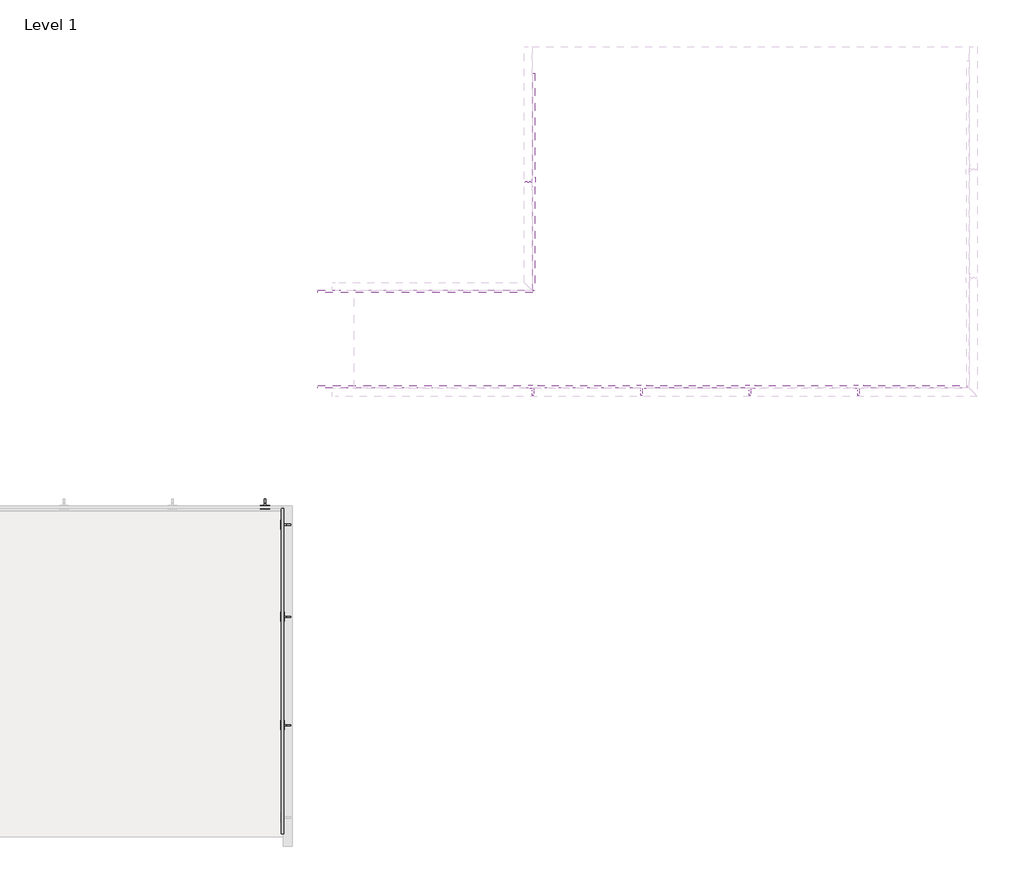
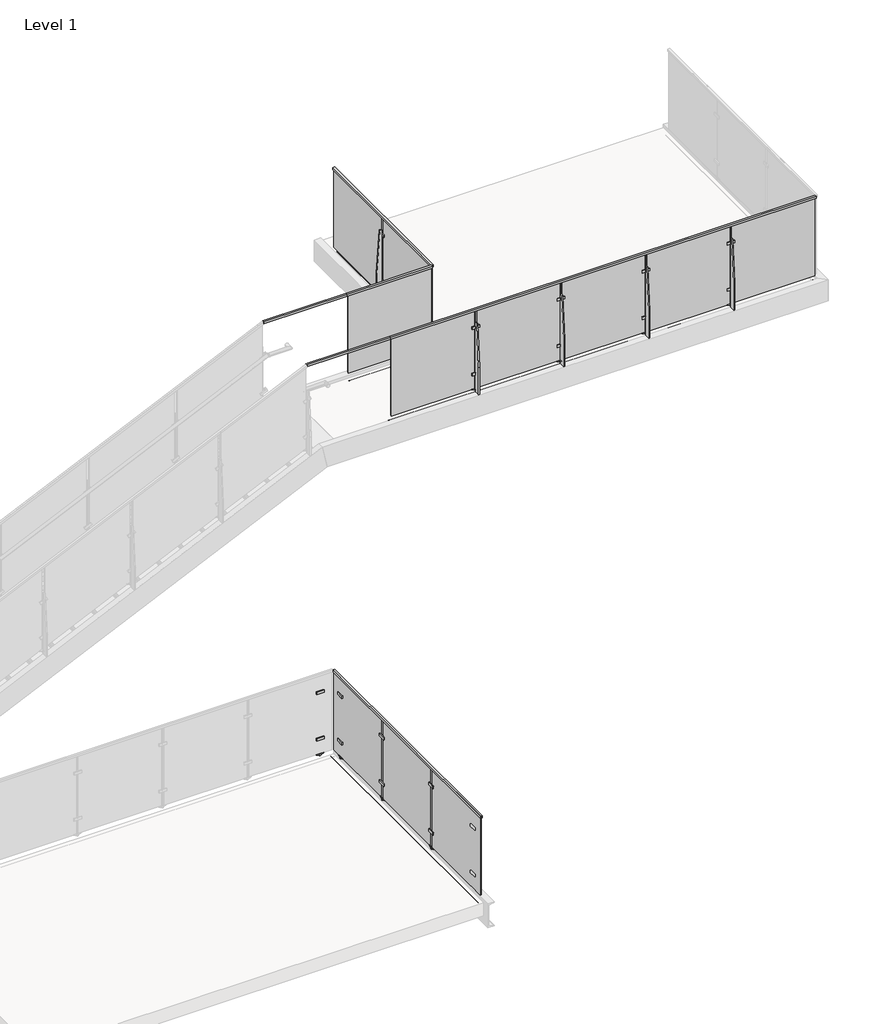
# One storey, part 16 of 37: 4 railings, 2 proxies.
"""IFC4 building model written with IfcOpenShell, lengths in millimetres."""

from ifc_helpers import new_model, si_unit, point, frame, frame_2d, origin, place, context, project, spatial, polyline, circle_curve, trimmed, segment, composite_curve, outline, extrude, faceted_brep, transform, mapped, element, save
from components import baluster_end_post_viva_solo_top_mount_welded_steel_channel_1b436ed5, baluster_end_post_viva_solo_top_mount_welded_steel_channel_5e72ad2b

model = new_model("IFC4")

# Units and contexts
model_context = context("Model", 3, world=origin())
ifc_project = project(units=[si_unit("LENGTHUNIT", "METRE", prefix="MILLI")], contexts=[model_context])

# Site, building, storey
site = spatial("IfcSite", under=ifc_project)
building = spatial("IfcBuilding", under=site)
storey = spatial("IfcBuildingStorey", under=building, Name="Level 1", Elevation=0.0)

# Proxies
placement = place(None, origin())
baluster_end_post_viva_solo_top_mount_welded_steel_channel_shape = baluster_end_post_viva_solo_top_mount_welded_steel_channel_1b436ed5(model_context)
element("IfcBuildingElementProxy", 1, Name="Baluster-End-Post-VIVA-SOLO-Top Mount : WELDED STEEL CHANNEL_TOP MOUNT FOLD_STRAIGHT", ObjectType="Baluster-End-Post-VIVA-SOLO-Top Mount : WELDED STEEL CHANNEL_TOP MOUNT FOLD_STRAIGHT", at=placement, inside=storey, context=model_context, shape_type="MappedRepresentation", body=[
    mapped(baluster_end_post_viva_solo_top_mount_welded_steel_channel_shape, transform((-7805.6781451, 11842.6434615, -0.508), x_axis=(0.0, 1.0, 0.0), y_axis=(-1.0, 0.0, 0.0), z_axis=(0.0, 0.0, 1.0))),
])
baluster_end_post_viva_solo_top_mount_welded_steel_channel_2_shape = baluster_end_post_viva_solo_top_mount_welded_steel_channel_5e72ad2b(model_context)
element("IfcBuildingElementProxy", 2, Name="Baluster-End-Post-VIVA-SOLO-Top Mount : WELDED STEEL CHANNEL_TOP MOUNT FOLD_STRAIGHT", ObjectType="Baluster-End-Post-VIVA-SOLO-Top Mount : WELDED STEEL CHANNEL_TOP MOUNT FOLD_STRAIGHT", at=placement, inside=storey, context=model_context, shape_type="MappedRepresentation", body=[
    mapped(baluster_end_post_viva_solo_top_mount_welded_steel_channel_2_shape, transform((-7780.5956451, 11817.5609615, -0.508), x_axis=(-1.0, 0.0, 0.0), y_axis=(0.0, -1.0, 0.0), z_axis=(0.0, 0.0, 1.0))),
])

# Railings
element("IfcRailing", 3, ObjectType="VIVA-SOLO-Glass-Top_Weld_Steel-Channel Mount-Straight", at=placement, inside=storey, context=model_context, shape_type="SweptSolid", body=[
    extrude(outline(composite_curve([segment(trimmed(circle_curve(frame_2d((-0.254, -7805.6781451)), 0.254), [point((-0.254, -7805.9321451))], [point((-0.254, -7805.4241451))], False, "CARTESIAN"), True, "CONTINUOUS"), segment(trimmed(circle_curve(frame_2d((-0.254, -7805.6781451)), 0.254), [point((-0.254, -7805.4241451))], [point((-0.254, -7805.9321451))], False, "CARTESIAN"), True, "CONTINUOUS")], self_intersect=False)), frame((0.0, 8794.6434615, 0.0), z_axis=(0.0, 1.0, 0.0), x_axis=(0.0, 0.0, 1.0)), (0.0, 0.0, 1.0), 3048.0),
    extrude(outline(composite_curve([segment(trimmed(circle_curve(frame_2d((-0.254, -7805.6781451)), 0.254), [point((-0.254, -7805.9321451))], [point((-0.254, -7805.4241451))], False, "CARTESIAN"), True, "CONTINUOUS"), segment(trimmed(circle_curve(frame_2d((-0.254, -7805.6781451)), 0.254), [point((-0.254, -7805.4241451))], [point((-0.254, -7805.9321451))], False, "CARTESIAN"), True, "CONTINUOUS")], self_intersect=False)), frame((0.0, 8794.6434615, 0.0), z_axis=(0.0, 1.0, 0.0), x_axis=(0.0, 0.0, 1.0)), (0.0, 0.0, 1.0), 3048.0),
    extrude(outline(polyline([(1079.5, -7780.5956451), (1054.1, -7780.5956451), (1054.1, -7775.8331451), (1074.7375, -7775.8331451), (1074.7375, -7763.1331451), (1054.1, -7763.1331451), (1054.1, -7758.3706451), (1079.5, -7758.3706451), (1079.5, -7780.5956451)])), frame((0.0, 8794.6434615, 0.0), z_axis=(0.0, 1.0, 0.0), x_axis=(0.0, 0.0, 1.0)), (0.0, 0.0, 1.0), 3048.0),
    extrude(outline(polyline([(-7775.8331451, 9797.5604149), (-7763.1331451, 9797.5604149), (-7763.1331451, 8806.9604149), (-7775.8331451, 8806.9604149), (-7775.8331451, 9797.5604149)])), frame((0.0, 0.0, 76.2), z_axis=(0.0, 0.0, 1.0), x_axis=(1.0, 0.0, 0.0)), (0.0, 0.0, 1.0), 998.474),
    extrude(outline(polyline([(914.4, -7753.6081451), (38.1, -7753.6081451), (38.1, -7690.1081451), (381.0, -7690.1081451), (914.4, -7728.2081451), (914.4, -7753.6081451)])), frame((0.0, 9804.2934615, 0.0), z_axis=(0.0, 1.0, 0.0), x_axis=(0.0, 0.0, 1.0)), (0.0, 0.0, 1.0), 12.7),
    extrude(outline(polyline([(-7763.1331451, 9855.0934615), (-7753.6081451, 9855.0934615), (-7753.6081451, 9766.1934615), (-7763.1331451, 9766.1934615), (-7763.1331451, 9855.0934615)])), frame((0.0, 0.0, 251.9910694), z_axis=(0.0, 0.0, 1.0), x_axis=(1.0, 0.0, 0.0)), (0.0, 0.0, 1.0), 31.75),
    extrude(outline(polyline([(-7763.1331451, 9855.0934615), (-7753.6081451, 9855.0934615), (-7753.6081451, 9766.1934615), (-7763.1331451, 9766.1934615), (-7763.1331451, 9855.0934615)])), frame((0.0, 0.0, 838.2992187), z_axis=(0.0, 0.0, 1.0), x_axis=(1.0, 0.0, 0.0)), (0.0, 0.0, 1.0), 31.75),
    extrude(outline(polyline([(-7785.3581451, 9855.0934615), (-7775.8331451, 9855.0934615), (-7775.8331451, 9766.1934615), (-7785.3581451, 9766.1934615), (-7785.3581451, 9855.0934615)])), frame((0.0, 0.0, 251.9910694), z_axis=(0.0, 0.0, 1.0), x_axis=(1.0, 0.0, 0.0)), (0.0, 0.0, 1.0), 31.75),
    extrude(outline(polyline([(-7785.3581451, 9855.0934615), (-7775.8331451, 9855.0934615), (-7775.8331451, 9766.1934615), (-7785.3581451, 9766.1934615), (-7785.3581451, 9855.0934615)])), frame((0.0, 0.0, 838.2992187), z_axis=(0.0, 0.0, 1.0), x_axis=(1.0, 0.0, 0.0)), (0.0, 0.0, 1.0), 31.75),
    extrude(outline(polyline([(9766.1934615, 76.2), (9855.0934615, 76.2), (9855.0934615, 69.85), (9810.6434615, 47.9353513), (9766.1934615, 69.85), (9766.1934615, 76.2)])), frame((-7775.8331451, 0.0, 0.0), z_axis=(1.0, 0.0, 0.0), x_axis=(0.0, 1.0, 0.0)), (0.0, 0.0, 1.0), 12.7),
    extrude(outline(composite_curve([segment(trimmed(circle_curve(frame_2d((9810.6434615, 267.8660694)), 6.35), [point((9804.2934615, 267.8660694))], [point((9816.9934615, 267.8660694))], False, "CARTESIAN"), True, "CONTINUOUS"), segment(trimmed(circle_curve(frame_2d((9810.6434615, 267.8660694)), 6.35), [point((9816.9934615, 267.8660694))], [point((9804.2934615, 267.8660694))], False, "CARTESIAN"), True, "CONTINUOUS")], self_intersect=False)), frame((-7775.8331451, 0.0, 0.0), z_axis=(1.0, 0.0, 0.0), x_axis=(0.0, 1.0, 0.0)), (0.0, 0.0, 1.0), 12.7),
    extrude(outline(composite_curve([segment(trimmed(circle_curve(frame_2d((9810.6434615, 854.1742187)), 6.35), [point((9804.2934615, 854.1742187))], [point((9816.9934615, 854.1742187))], False, "CARTESIAN"), True, "CONTINUOUS"), segment(trimmed(circle_curve(frame_2d((9810.6434615, 854.1742187)), 6.35), [point((9816.9934615, 854.1742187))], [point((9804.2934615, 854.1742187))], False, "CARTESIAN"), True, "CONTINUOUS")], self_intersect=False)), frame((-7775.8331451, 0.0, 0.0), z_axis=(1.0, 0.0, 0.0), x_axis=(0.0, 1.0, 0.0)), (0.0, 0.0, 1.0), 12.7),
    extrude(outline(composite_curve([segment(trimmed(circle_curve(frame_2d((9810.6434615, 60.325)), 11.1125), [point((9799.5309615, 60.325))], [point((9821.7559615, 60.325))], False, "CARTESIAN"), True, "CONTINUOUS"), segment(trimmed(circle_curve(frame_2d((9810.6434615, 60.325)), 11.1125), [point((9821.7559615, 60.325))], [point((9799.5309615, 60.325))], False, "CARTESIAN"), True, "CONTINUOUS")], self_intersect=False)), frame((-7779.0081451, 0.0, 0.0), z_axis=(1.0, 0.0, 0.0), x_axis=(0.0, 1.0, 0.0)), (0.0, 0.0, 1.0), 25.4),
    extrude(outline(polyline([(-7775.8331451, 10813.5604149), (-7763.1331451, 10813.5604149), (-7763.1331451, 9822.9604149), (-7775.8331451, 9822.9604149), (-7775.8331451, 10813.5604149)])), frame((0.0, 0.0, 76.2), z_axis=(0.0, 0.0, 1.0), x_axis=(1.0, 0.0, 0.0)), (0.0, 0.0, 1.0), 998.474),
    extrude(outline(polyline([(914.4, -7753.6081451), (38.1, -7753.6081451), (38.1, -7690.1081451), (381.0, -7690.1081451), (914.4, -7728.2081451), (914.4, -7753.6081451)])), frame((0.0, 10820.2934615, 0.0), z_axis=(0.0, 1.0, 0.0), x_axis=(0.0, 0.0, 1.0)), (0.0, 0.0, 1.0), 12.7),
    extrude(outline(polyline([(-7763.1331451, 10871.0934615), (-7753.6081451, 10871.0934615), (-7753.6081451, 10782.1934615), (-7763.1331451, 10782.1934615), (-7763.1331451, 10871.0934615)])), frame((0.0, 0.0, 251.9910694), z_axis=(0.0, 0.0, 1.0), x_axis=(1.0, 0.0, 0.0)), (0.0, 0.0, 1.0), 31.75),
    extrude(outline(polyline([(-7763.1331451, 10871.0934615), (-7753.6081451, 10871.0934615), (-7753.6081451, 10782.1934615), (-7763.1331451, 10782.1934615), (-7763.1331451, 10871.0934615)])), frame((0.0, 0.0, 838.2992187), z_axis=(0.0, 0.0, 1.0), x_axis=(1.0, 0.0, 0.0)), (0.0, 0.0, 1.0), 31.75),
    extrude(outline(polyline([(-7785.3581451, 10871.0934615), (-7775.8331451, 10871.0934615), (-7775.8331451, 10782.1934615), (-7785.3581451, 10782.1934615), (-7785.3581451, 10871.0934615)])), frame((0.0, 0.0, 251.9910694), z_axis=(0.0, 0.0, 1.0), x_axis=(1.0, 0.0, 0.0)), (0.0, 0.0, 1.0), 31.75),
    extrude(outline(polyline([(-7785.3581451, 10871.0934615), (-7775.8331451, 10871.0934615), (-7775.8331451, 10782.1934615), (-7785.3581451, 10782.1934615), (-7785.3581451, 10871.0934615)])), frame((0.0, 0.0, 838.2992187), z_axis=(0.0, 0.0, 1.0), x_axis=(1.0, 0.0, 0.0)), (0.0, 0.0, 1.0), 31.75),
    extrude(outline(polyline([(10782.1934615, 76.2), (10871.0934615, 76.2), (10871.0934615, 69.85), (10826.6434615, 47.9353513), (10782.1934615, 69.85), (10782.1934615, 76.2)])), frame((-7775.8331451, 0.0, 0.0), z_axis=(1.0, 0.0, 0.0), x_axis=(0.0, 1.0, 0.0)), (0.0, 0.0, 1.0), 12.7),
    extrude(outline(composite_curve([segment(trimmed(circle_curve(frame_2d((10826.6434615, 267.8660694)), 6.35), [point((10820.2934615, 267.8660694))], [point((10832.9934615, 267.8660694))], False, "CARTESIAN"), True, "CONTINUOUS"), segment(trimmed(circle_curve(frame_2d((10826.6434615, 267.8660694)), 6.35), [point((10832.9934615, 267.8660694))], [point((10820.2934615, 267.8660694))], False, "CARTESIAN"), True, "CONTINUOUS")], self_intersect=False)), frame((-7775.8331451, 0.0, 0.0), z_axis=(1.0, 0.0, 0.0), x_axis=(0.0, 1.0, 0.0)), (0.0, 0.0, 1.0), 12.7),
    extrude(outline(composite_curve([segment(trimmed(circle_curve(frame_2d((10826.6434615, 854.1742187)), 6.35), [point((10820.2934615, 854.1742187))], [point((10832.9934615, 854.1742187))], False, "CARTESIAN"), True, "CONTINUOUS"), segment(trimmed(circle_curve(frame_2d((10826.6434615, 854.1742187)), 6.35), [point((10832.9934615, 854.1742187))], [point((10820.2934615, 854.1742187))], False, "CARTESIAN"), True, "CONTINUOUS")], self_intersect=False)), frame((-7775.8331451, 0.0, 0.0), z_axis=(1.0, 0.0, 0.0), x_axis=(0.0, 1.0, 0.0)), (0.0, 0.0, 1.0), 12.7),
    extrude(outline(composite_curve([segment(trimmed(circle_curve(frame_2d((10826.6434615, 60.325)), 11.1125), [point((10815.5309615, 60.325))], [point((10837.7559615, 60.325))], False, "CARTESIAN"), True, "CONTINUOUS"), segment(trimmed(circle_curve(frame_2d((10826.6434615, 60.325)), 11.1125), [point((10837.7559615, 60.325))], [point((10815.5309615, 60.325))], False, "CARTESIAN"), True, "CONTINUOUS")], self_intersect=False)), frame((-7779.0081451, 0.0, 0.0), z_axis=(1.0, 0.0, 0.0), x_axis=(0.0, 1.0, 0.0)), (0.0, 0.0, 1.0), 25.4),
    extrude(outline(polyline([(-7775.8331451, 11829.5604149), (-7763.1331451, 11829.5604149), (-7763.1331451, 10838.9604149), (-7775.8331451, 10838.9604149), (-7775.8331451, 11829.5604149)])), frame((0.0, 0.0, 76.2), z_axis=(0.0, 0.0, 1.0), x_axis=(1.0, 0.0, 0.0)), (0.0, 0.0, 1.0), 998.474),
])
element("IfcRailing", 4, ObjectType="VIVA-SOLO-Glass-Top_Weld_Steel-Channel Mount-Straight", at=placement, inside=storey, context=model_context, shape_type="SolidModel", body=[
    extrude(outline(composite_curve([segment(trimmed(circle_curve(frame_2d((13017.1276645, 3047.746)), 0.254), [point((13016.8736645, 3047.746))], [point((13017.3816645, 3047.746))], False, "CARTESIAN"), True, "CONTINUOUS"), segment(trimmed(circle_curve(frame_2d((13017.1276645, 3047.746)), 0.254), [point((13017.3816645, 3047.746))], [point((13016.8736645, 3047.746))], False, "CARTESIAN"), True, "CONTINUOUS")], self_intersect=False)), frame((-6439.864819, 0.0, 0.0), z_axis=(1.0, 0.0, 0.0), x_axis=(0.0, 1.0, 0.0)), (0.0, 0.0, 1.0), 5080.0),
    extrude(outline(composite_curve([segment(trimmed(circle_curve(frame_2d((13017.1276645, 3047.746)), 0.254), [point((13016.8736645, 3047.746))], [point((13017.3816645, 3047.746))], False, "CARTESIAN"), True, "CONTINUOUS"), segment(trimmed(circle_curve(frame_2d((13017.1276645, 3047.746)), 0.254), [point((13017.3816645, 3047.746))], [point((13016.8736645, 3047.746))], False, "CARTESIAN"), True, "CONTINUOUS")], self_intersect=False)), frame((-6439.864819, 0.0, 0.0), z_axis=(1.0, 0.0, 0.0), x_axis=(0.0, 1.0, 0.0)), (0.0, 0.0, 1.0), 5080.0),
    faceted_brep([(-1359.864819, 12969.8201645, 4127.5), (-1359.864819, 12969.8201645, 4102.1), (-1359.864819, 12974.5826645, 4102.1), (-1359.864819, 12974.5826645, 4122.7375), (-1359.864819, 12987.2826645, 4122.7375), (-1359.864819, 12987.2826645, 4102.1), (-1359.864819, 12992.0451645, 4102.1), (-1359.864819, 12992.0451645, 4127.5), (-6439.864819, 12992.0451645, 4127.5), (-6439.864819, 12969.8201645, 4127.5), (-6439.864819, 12992.0451645, 4102.1), (-6439.864819, 12987.2826645, 4102.1), (-6439.864819, 12987.2826645, 4122.7375), (-6439.864819, 12974.5826645, 4122.7375), (-6439.864819, 12974.5826645, 4102.1), (-6439.864819, 12969.8201645, 4102.1), (-7438.9360127, 12969.8201645, 4127.5), (-7438.9360127, 12992.0451645, 4127.5), (-7438.9360127, 12992.0451645, 4102.1), (-7438.9360127, 12987.2826645, 4102.1), (-7438.9360127, 12987.2826645, 4122.7375), (-7438.9360127, 12974.5826645, 4122.7375), (-7438.9360127, 12974.5826645, 4102.1), (-7438.9360127, 12969.8201645, 4102.1)], [[[0, 1, 2, 3, 4, 5, 6, 7]], [[8, 9, 0, 7]], [[10, 8, 7, 6]], [[11, 10, 6, 5]], [[12, 11, 5, 4]], [[13, 12, 4, 3]], [[14, 13, 3, 2]], [[15, 14, 2, 1]], [[9, 15, 1, 0]], [[16, 17, 18, 19, 20, 21, 22, 23]], [[17, 16, 9, 8]], [[18, 17, 8, 10]], [[19, 18, 10, 11]], [[20, 19, 11, 12]], [[21, 20, 12, 13]], [[22, 21, 13, 14]], [[23, 22, 14, 15]], [[16, 23, 15, 9]]]),
    extrude(outline(polyline([(-2362.7817724, 12987.2826645), (-1372.1817724, 12987.2826645), (-1372.1817724, 12974.5826645), (-2362.7817724, 12974.5826645), (-2362.7817724, 12987.2826645)])), frame((0.0, 0.0, 3124.2), z_axis=(0.0, 0.0, 1.0), x_axis=(1.0, 0.0, 0.0)), (0.0, 0.0, 1.0), 998.474),
    extrude(outline(polyline([(12965.0576645, 3962.4), (12965.0576645, 3086.1), (12901.5576645, 3086.1), (12901.5576645, 3429.0), (12939.6576645, 3962.4), (12965.0576645, 3962.4)])), frame((-2382.214819, 0.0, 0.0), z_axis=(1.0, 0.0, 0.0), x_axis=(0.0, 1.0, 0.0)), (0.0, 0.0, 1.0), 12.7),
    extrude(outline(polyline([(-2420.314819, 12974.5826645), (-2331.414819, 12974.5826645), (-2331.414819, 12965.0576645), (-2420.314819, 12965.0576645), (-2420.314819, 12974.5826645)])), frame((0.0, 0.0, 3299.9910694), z_axis=(0.0, 0.0, 1.0), x_axis=(1.0, 0.0, 0.0)), (0.0, 0.0, 1.0), 31.75),
    extrude(outline(polyline([(-2420.314819, 12974.5826645), (-2331.414819, 12974.5826645), (-2331.414819, 12965.0576645), (-2420.314819, 12965.0576645), (-2420.314819, 12974.5826645)])), frame((0.0, 0.0, 3886.2992187), z_axis=(0.0, 0.0, 1.0), x_axis=(1.0, 0.0, 0.0)), (0.0, 0.0, 1.0), 31.75),
    extrude(outline(polyline([(-2420.314819, 12996.8076645), (-2331.414819, 12996.8076645), (-2331.414819, 12987.2826645), (-2420.314819, 12987.2826645), (-2420.314819, 12996.8076645)])), frame((0.0, 0.0, 3299.9910694), z_axis=(0.0, 0.0, 1.0), x_axis=(1.0, 0.0, 0.0)), (0.0, 0.0, 1.0), 31.75),
    extrude(outline(polyline([(-2420.314819, 12996.8076645), (-2331.414819, 12996.8076645), (-2331.414819, 12987.2826645), (-2420.314819, 12987.2826645), (-2420.314819, 12996.8076645)])), frame((0.0, 0.0, 3886.2992187), z_axis=(0.0, 0.0, 1.0), x_axis=(1.0, 0.0, 0.0)), (0.0, 0.0, 1.0), 31.75),
    extrude(outline(polyline([(3124.2, -2331.414819), (3124.2, -2420.314819), (3117.85, -2420.314819), (3095.9353513, -2375.864819), (3117.85, -2331.414819), (3124.2, -2331.414819)])), frame((0.0, 12974.5826645, 0.0), z_axis=(0.0, 1.0, 0.0), x_axis=(0.0, 0.0, 1.0)), (0.0, 0.0, 1.0), 12.7),
    extrude(outline(composite_curve([segment(trimmed(circle_curve(frame_2d((3315.8660694, -2375.864819)), 6.35), [point((3315.8660694, -2369.514819))], [point((3315.8660694, -2382.214819))], False, "CARTESIAN"), True, "CONTINUOUS"), segment(trimmed(circle_curve(frame_2d((3315.8660694, -2375.864819)), 6.35), [point((3315.8660694, -2382.214819))], [point((3315.8660694, -2369.514819))], False, "CARTESIAN"), True, "CONTINUOUS")], self_intersect=False)), frame((0.0, 12974.5826645, 0.0), z_axis=(0.0, 1.0, 0.0), x_axis=(0.0, 0.0, 1.0)), (0.0, 0.0, 1.0), 12.7),
    extrude(outline(composite_curve([segment(trimmed(circle_curve(frame_2d((3902.1742187, -2375.864819)), 6.35), [point((3902.1742187, -2369.514819))], [point((3902.1742187, -2382.214819))], False, "CARTESIAN"), True, "CONTINUOUS"), segment(trimmed(circle_curve(frame_2d((3902.1742187, -2375.864819)), 6.35), [point((3902.1742187, -2382.214819))], [point((3902.1742187, -2369.514819))], False, "CARTESIAN"), True, "CONTINUOUS")], self_intersect=False)), frame((0.0, 12974.5826645, 0.0), z_axis=(0.0, 1.0, 0.0), x_axis=(0.0, 0.0, 1.0)), (0.0, 0.0, 1.0), 12.7),
    extrude(outline(composite_curve([segment(trimmed(circle_curve(frame_2d((3108.325, -2375.864819)), 11.1125), [point((3108.325, -2364.752319))], [point((3108.325, -2386.977319))], False, "CARTESIAN"), True, "CONTINUOUS"), segment(trimmed(circle_curve(frame_2d((3108.325, -2375.864819)), 11.1125), [point((3108.325, -2386.977319))], [point((3108.325, -2364.752319))], False, "CARTESIAN"), True, "CONTINUOUS")], self_intersect=False)), frame((0.0, 12965.0576645, 0.0), z_axis=(0.0, 1.0, 0.0), x_axis=(0.0, 0.0, 1.0)), (0.0, 0.0, 1.0), 25.4),
    extrude(outline(polyline([(-3378.7817724, 12987.2826645), (-2388.1817724, 12987.2826645), (-2388.1817724, 12974.5826645), (-3378.7817724, 12974.5826645), (-3378.7817724, 12987.2826645)])), frame((0.0, 0.0, 3124.2), z_axis=(0.0, 0.0, 1.0), x_axis=(1.0, 0.0, 0.0)), (0.0, 0.0, 1.0), 998.474),
    extrude(outline(polyline([(12965.0576645, 3962.4), (12965.0576645, 3086.1), (12901.5576645, 3086.1), (12901.5576645, 3429.0), (12939.6576645, 3962.4), (12965.0576645, 3962.4)])), frame((-3398.214819, 0.0, 0.0), z_axis=(1.0, 0.0, 0.0), x_axis=(0.0, 1.0, 0.0)), (0.0, 0.0, 1.0), 12.7),
    extrude(outline(polyline([(-3436.314819, 12974.5826645), (-3347.414819, 12974.5826645), (-3347.414819, 12965.0576645), (-3436.314819, 12965.0576645), (-3436.314819, 12974.5826645)])), frame((0.0, 0.0, 3299.9910694), z_axis=(0.0, 0.0, 1.0), x_axis=(1.0, 0.0, 0.0)), (0.0, 0.0, 1.0), 31.75),
    extrude(outline(polyline([(-3436.314819, 12974.5826645), (-3347.414819, 12974.5826645), (-3347.414819, 12965.0576645), (-3436.314819, 12965.0576645), (-3436.314819, 12974.5826645)])), frame((0.0, 0.0, 3886.2992187), z_axis=(0.0, 0.0, 1.0), x_axis=(1.0, 0.0, 0.0)), (0.0, 0.0, 1.0), 31.75),
    extrude(outline(polyline([(-3436.314819, 12996.8076645), (-3347.414819, 12996.8076645), (-3347.414819, 12987.2826645), (-3436.314819, 12987.2826645), (-3436.314819, 12996.8076645)])), frame((0.0, 0.0, 3299.9910694), z_axis=(0.0, 0.0, 1.0), x_axis=(1.0, 0.0, 0.0)), (0.0, 0.0, 1.0), 31.75),
    extrude(outline(polyline([(-3436.314819, 12996.8076645), (-3347.414819, 12996.8076645), (-3347.414819, 12987.2826645), (-3436.314819, 12987.2826645), (-3436.314819, 12996.8076645)])), frame((0.0, 0.0, 3886.2992187), z_axis=(0.0, 0.0, 1.0), x_axis=(1.0, 0.0, 0.0)), (0.0, 0.0, 1.0), 31.75),
    extrude(outline(polyline([(3124.2, -3347.414819), (3124.2, -3436.314819), (3117.85, -3436.314819), (3095.9353513, -3391.864819), (3117.85, -3347.414819), (3124.2, -3347.414819)])), frame((0.0, 12974.5826645, 0.0), z_axis=(0.0, 1.0, 0.0), x_axis=(0.0, 0.0, 1.0)), (0.0, 0.0, 1.0), 12.7),
    extrude(outline(composite_curve([segment(trimmed(circle_curve(frame_2d((3315.8660694, -3391.864819)), 6.35), [point((3315.8660694, -3385.514819))], [point((3315.8660694, -3398.214819))], False, "CARTESIAN"), True, "CONTINUOUS"), segment(trimmed(circle_curve(frame_2d((3315.8660694, -3391.864819)), 6.35), [point((3315.8660694, -3398.214819))], [point((3315.8660694, -3385.514819))], False, "CARTESIAN"), True, "CONTINUOUS")], self_intersect=False)), frame((0.0, 12974.5826645, 0.0), z_axis=(0.0, 1.0, 0.0), x_axis=(0.0, 0.0, 1.0)), (0.0, 0.0, 1.0), 12.7),
    extrude(outline(composite_curve([segment(trimmed(circle_curve(frame_2d((3902.1742187, -3391.864819)), 6.35), [point((3902.1742187, -3385.514819))], [point((3902.1742187, -3398.214819))], False, "CARTESIAN"), True, "CONTINUOUS"), segment(trimmed(circle_curve(frame_2d((3902.1742187, -3391.864819)), 6.35), [point((3902.1742187, -3398.214819))], [point((3902.1742187, -3385.514819))], False, "CARTESIAN"), True, "CONTINUOUS")], self_intersect=False)), frame((0.0, 12974.5826645, 0.0), z_axis=(0.0, 1.0, 0.0), x_axis=(0.0, 0.0, 1.0)), (0.0, 0.0, 1.0), 12.7),
    extrude(outline(composite_curve([segment(trimmed(circle_curve(frame_2d((3108.325, -3391.864819)), 11.1125), [point((3108.325, -3380.752319))], [point((3108.325, -3402.977319))], False, "CARTESIAN"), True, "CONTINUOUS"), segment(trimmed(circle_curve(frame_2d((3108.325, -3391.864819)), 11.1125), [point((3108.325, -3402.977319))], [point((3108.325, -3380.752319))], False, "CARTESIAN"), True, "CONTINUOUS")], self_intersect=False)), frame((0.0, 12965.0576645, 0.0), z_axis=(0.0, 1.0, 0.0), x_axis=(0.0, 0.0, 1.0)), (0.0, 0.0, 1.0), 25.4),
    extrude(outline(polyline([(-4394.7817724, 12987.2826645), (-3404.1817724, 12987.2826645), (-3404.1817724, 12974.5826645), (-4394.7817724, 12974.5826645), (-4394.7817724, 12987.2826645)])), frame((0.0, 0.0, 3124.2), z_axis=(0.0, 0.0, 1.0), x_axis=(1.0, 0.0, 0.0)), (0.0, 0.0, 1.0), 998.474),
    extrude(outline(polyline([(12965.0576645, 3962.4), (12965.0576645, 3086.1), (12901.5576645, 3086.1), (12901.5576645, 3429.0), (12939.6576645, 3962.4), (12965.0576645, 3962.4)])), frame((-4414.214819, 0.0, 0.0), z_axis=(1.0, 0.0, 0.0), x_axis=(0.0, 1.0, 0.0)), (0.0, 0.0, 1.0), 12.7),
    extrude(outline(polyline([(-4452.314819, 12974.5826645), (-4363.414819, 12974.5826645), (-4363.414819, 12965.0576645), (-4452.314819, 12965.0576645), (-4452.314819, 12974.5826645)])), frame((0.0, 0.0, 3299.9910694), z_axis=(0.0, 0.0, 1.0), x_axis=(1.0, 0.0, 0.0)), (0.0, 0.0, 1.0), 31.75),
    extrude(outline(polyline([(-4452.314819, 12974.5826645), (-4363.414819, 12974.5826645), (-4363.414819, 12965.0576645), (-4452.314819, 12965.0576645), (-4452.314819, 12974.5826645)])), frame((0.0, 0.0, 3886.2992187), z_axis=(0.0, 0.0, 1.0), x_axis=(1.0, 0.0, 0.0)), (0.0, 0.0, 1.0), 31.75),
    extrude(outline(polyline([(-4452.314819, 12996.8076645), (-4363.414819, 12996.8076645), (-4363.414819, 12987.2826645), (-4452.314819, 12987.2826645), (-4452.314819, 12996.8076645)])), frame((0.0, 0.0, 3299.9910694), z_axis=(0.0, 0.0, 1.0), x_axis=(1.0, 0.0, 0.0)), (0.0, 0.0, 1.0), 31.75),
    extrude(outline(polyline([(-4452.314819, 12996.8076645), (-4363.414819, 12996.8076645), (-4363.414819, 12987.2826645), (-4452.314819, 12987.2826645), (-4452.314819, 12996.8076645)])), frame((0.0, 0.0, 3886.2992187), z_axis=(0.0, 0.0, 1.0), x_axis=(1.0, 0.0, 0.0)), (0.0, 0.0, 1.0), 31.75),
    extrude(outline(polyline([(3124.2, -4363.414819), (3124.2, -4452.314819), (3117.85, -4452.314819), (3095.9353513, -4407.864819), (3117.85, -4363.414819), (3124.2, -4363.414819)])), frame((0.0, 12974.5826645, 0.0), z_axis=(0.0, 1.0, 0.0), x_axis=(0.0, 0.0, 1.0)), (0.0, 0.0, 1.0), 12.7),
    extrude(outline(composite_curve([segment(trimmed(circle_curve(frame_2d((3315.8660694, -4407.864819)), 6.35), [point((3315.8660694, -4401.514819))], [point((3315.8660694, -4414.214819))], False, "CARTESIAN"), True, "CONTINUOUS"), segment(trimmed(circle_curve(frame_2d((3315.8660694, -4407.864819)), 6.35), [point((3315.8660694, -4414.214819))], [point((3315.8660694, -4401.514819))], False, "CARTESIAN"), True, "CONTINUOUS")], self_intersect=False)), frame((0.0, 12974.5826645, 0.0), z_axis=(0.0, 1.0, 0.0), x_axis=(0.0, 0.0, 1.0)), (0.0, 0.0, 1.0), 12.7),
    extrude(outline(composite_curve([segment(trimmed(circle_curve(frame_2d((3902.1742187, -4407.864819)), 6.35), [point((3902.1742187, -4401.514819))], [point((3902.1742187, -4414.214819))], False, "CARTESIAN"), True, "CONTINUOUS"), segment(trimmed(circle_curve(frame_2d((3902.1742187, -4407.864819)), 6.35), [point((3902.1742187, -4414.214819))], [point((3902.1742187, -4401.514819))], False, "CARTESIAN"), True, "CONTINUOUS")], self_intersect=False)), frame((0.0, 12974.5826645, 0.0), z_axis=(0.0, 1.0, 0.0), x_axis=(0.0, 0.0, 1.0)), (0.0, 0.0, 1.0), 12.7),
    extrude(outline(composite_curve([segment(trimmed(circle_curve(frame_2d((3108.325, -4407.864819)), 11.1125), [point((3108.325, -4396.752319))], [point((3108.325, -4418.977319))], False, "CARTESIAN"), True, "CONTINUOUS"), segment(trimmed(circle_curve(frame_2d((3108.325, -4407.864819)), 11.1125), [point((3108.325, -4418.977319))], [point((3108.325, -4396.752319))], False, "CARTESIAN"), True, "CONTINUOUS")], self_intersect=False)), frame((0.0, 12965.0576645, 0.0), z_axis=(0.0, 1.0, 0.0), x_axis=(0.0, 0.0, 1.0)), (0.0, 0.0, 1.0), 25.4),
    extrude(outline(polyline([(-5410.7817724, 12987.2826645), (-4420.1817724, 12987.2826645), (-4420.1817724, 12974.5826645), (-5410.7817724, 12974.5826645), (-5410.7817724, 12987.2826645)])), frame((0.0, 0.0, 3124.2), z_axis=(0.0, 0.0, 1.0), x_axis=(1.0, 0.0, 0.0)), (0.0, 0.0, 1.0), 998.474),
    extrude(outline(polyline([(12965.0576645, 3962.4), (12965.0576645, 3086.1), (12901.5576645, 3086.1), (12901.5576645, 3429.0), (12939.6576645, 3962.4), (12965.0576645, 3962.4)])), frame((-5430.214819, 0.0, 0.0), z_axis=(1.0, 0.0, 0.0), x_axis=(0.0, 1.0, 0.0)), (0.0, 0.0, 1.0), 12.7),
    extrude(outline(polyline([(-5468.314819, 12974.5826645), (-5379.414819, 12974.5826645), (-5379.414819, 12965.0576645), (-5468.314819, 12965.0576645), (-5468.314819, 12974.5826645)])), frame((0.0, 0.0, 3299.9910694), z_axis=(0.0, 0.0, 1.0), x_axis=(1.0, 0.0, 0.0)), (0.0, 0.0, 1.0), 31.75),
    extrude(outline(polyline([(-5468.314819, 12974.5826645), (-5379.414819, 12974.5826645), (-5379.414819, 12965.0576645), (-5468.314819, 12965.0576645), (-5468.314819, 12974.5826645)])), frame((0.0, 0.0, 3886.2992187), z_axis=(0.0, 0.0, 1.0), x_axis=(1.0, 0.0, 0.0)), (0.0, 0.0, 1.0), 31.75),
    extrude(outline(polyline([(-5468.314819, 12996.8076645), (-5379.414819, 12996.8076645), (-5379.414819, 12987.2826645), (-5468.314819, 12987.2826645), (-5468.314819, 12996.8076645)])), frame((0.0, 0.0, 3299.9910694), z_axis=(0.0, 0.0, 1.0), x_axis=(1.0, 0.0, 0.0)), (0.0, 0.0, 1.0), 31.75),
    extrude(outline(polyline([(-5468.314819, 12996.8076645), (-5379.414819, 12996.8076645), (-5379.414819, 12987.2826645), (-5468.314819, 12987.2826645), (-5468.314819, 12996.8076645)])), frame((0.0, 0.0, 3886.2992187), z_axis=(0.0, 0.0, 1.0), x_axis=(1.0, 0.0, 0.0)), (0.0, 0.0, 1.0), 31.75),
    extrude(outline(polyline([(3124.2, -5379.414819), (3124.2, -5468.314819), (3117.85, -5468.314819), (3095.9353513, -5423.864819), (3117.85, -5379.414819), (3124.2, -5379.414819)])), frame((0.0, 12974.5826645, 0.0), z_axis=(0.0, 1.0, 0.0), x_axis=(0.0, 0.0, 1.0)), (0.0, 0.0, 1.0), 12.7),
    extrude(outline(composite_curve([segment(trimmed(circle_curve(frame_2d((3315.8660694, -5423.864819)), 6.35), [point((3315.8660694, -5417.514819))], [point((3315.8660694, -5430.214819))], False, "CARTESIAN"), True, "CONTINUOUS"), segment(trimmed(circle_curve(frame_2d((3315.8660694, -5423.864819)), 6.35), [point((3315.8660694, -5430.214819))], [point((3315.8660694, -5417.514819))], False, "CARTESIAN"), True, "CONTINUOUS")], self_intersect=False)), frame((0.0, 12974.5826645, 0.0), z_axis=(0.0, 1.0, 0.0), x_axis=(0.0, 0.0, 1.0)), (0.0, 0.0, 1.0), 12.7),
    extrude(outline(composite_curve([segment(trimmed(circle_curve(frame_2d((3902.1742187, -5423.864819)), 6.35), [point((3902.1742187, -5417.514819))], [point((3902.1742187, -5430.214819))], False, "CARTESIAN"), True, "CONTINUOUS"), segment(trimmed(circle_curve(frame_2d((3902.1742187, -5423.864819)), 6.35), [point((3902.1742187, -5430.214819))], [point((3902.1742187, -5417.514819))], False, "CARTESIAN"), True, "CONTINUOUS")], self_intersect=False)), frame((0.0, 12974.5826645, 0.0), z_axis=(0.0, 1.0, 0.0), x_axis=(0.0, 0.0, 1.0)), (0.0, 0.0, 1.0), 12.7),
    extrude(outline(composite_curve([segment(trimmed(circle_curve(frame_2d((3108.325, -5423.864819)), 11.1125), [point((3108.325, -5412.752319))], [point((3108.325, -5434.977319))], False, "CARTESIAN"), True, "CONTINUOUS"), segment(trimmed(circle_curve(frame_2d((3108.325, -5423.864819)), 11.1125), [point((3108.325, -5434.977319))], [point((3108.325, -5412.752319))], False, "CARTESIAN"), True, "CONTINUOUS")], self_intersect=False)), frame((0.0, 12965.0576645, 0.0), z_axis=(0.0, 1.0, 0.0), x_axis=(0.0, 0.0, 1.0)), (0.0, 0.0, 1.0), 25.4),
    extrude(outline(polyline([(-6426.7817724, 12987.2826645), (-5436.1817724, 12987.2826645), (-5436.1817724, 12974.5826645), (-6426.7817724, 12974.5826645), (-6426.7817724, 12987.2826645)])), frame((0.0, 0.0, 3124.2), z_axis=(0.0, 0.0, 1.0), x_axis=(1.0, 0.0, 0.0)), (0.0, 0.0, 1.0), 998.474),
])
element("IfcRailing", 5, ObjectType="VIVA-SOLO-Glass-Top_Weld_Steel-Channel Mount-Straight", at=placement, inside=storey, context=model_context, shape_type="SolidModel", body=[
    extrude(outline(composite_curve([segment(trimmed(circle_curve(frame_2d((13839.5796645, 3047.746)), 0.254), [point((13839.3256645, 3047.746))], [point((13839.8336645, 3047.746))], False, "CARTESIAN"), True, "CONTINUOUS"), segment(trimmed(circle_curve(frame_2d((13839.5796645, 3047.746)), 0.254), [point((13839.8336645, 3047.746))], [point((13839.3256645, 3047.746))], False, "CARTESIAN"), True, "CONTINUOUS")], self_intersect=False)), frame((-6439.864819, 0.0, 0.0), z_axis=(1.0, 0.0, 0.0), x_axis=(0.0, 1.0, 0.0)), (0.0, 0.0, 1.0), 1016.0),
    extrude(outline(composite_curve([segment(trimmed(circle_curve(frame_2d((13839.5796645, 3047.746)), 0.254), [point((13839.3256645, 3047.746))], [point((13839.8336645, 3047.746))], False, "CARTESIAN"), True, "CONTINUOUS"), segment(trimmed(circle_curve(frame_2d((13839.5796645, 3047.746)), 0.254), [point((13839.8336645, 3047.746))], [point((13839.3256645, 3047.746))], False, "CARTESIAN"), True, "CONTINUOUS")], self_intersect=False)), frame((-6439.864819, 0.0, 0.0), z_axis=(1.0, 0.0, 0.0), x_axis=(0.0, 1.0, 0.0)), (0.0, 0.0, 1.0), 1016.0),
    faceted_brep([(-5423.864819, 13864.6621645, 4127.5), (-5423.864819, 13864.6621645, 4102.1), (-5423.864819, 13869.4246645, 4102.1), (-5423.864819, 13869.4246645, 4122.7375), (-5423.864819, 13882.1246645, 4122.7375), (-5423.864819, 13882.1246645, 4102.1), (-5423.864819, 13886.8871645, 4102.1), (-5423.864819, 13886.8871645, 4127.5), (-6439.864819, 13886.8871645, 4127.5), (-6439.864819, 13864.6621645, 4127.5), (-6439.864819, 13886.8871645, 4102.1), (-6439.864819, 13882.1246645, 4102.1), (-6439.864819, 13882.1246645, 4122.7375), (-6439.864819, 13869.4246645, 4122.7375), (-6439.864819, 13869.4246645, 4102.1), (-6439.864819, 13864.6621645, 4102.1), (-7438.9360127, 13864.6621645, 4127.5), (-7438.9360127, 13886.8871645, 4127.5), (-7438.9360127, 13886.8871645, 4102.1), (-7438.9360127, 13882.1246645, 4102.1), (-7438.9360127, 13882.1246645, 4122.7375), (-7438.9360127, 13869.4246645, 4122.7375), (-7438.9360127, 13869.4246645, 4102.1), (-7438.9360127, 13864.6621645, 4102.1)], [[[0, 1, 2, 3, 4, 5, 6, 7]], [[8, 9, 0, 7]], [[10, 8, 7, 6]], [[11, 10, 6, 5]], [[12, 11, 5, 4]], [[13, 12, 4, 3]], [[14, 13, 3, 2]], [[15, 14, 2, 1]], [[9, 15, 1, 0]], [[16, 17, 18, 19, 20, 21, 22, 23]], [[17, 16, 9, 8]], [[18, 17, 8, 10]], [[19, 18, 10, 11]], [[20, 19, 11, 12]], [[21, 20, 12, 13]], [[22, 21, 13, 14]], [[23, 22, 14, 15]], [[16, 23, 15, 9]]]),
    extrude(outline(polyline([(-6426.7817724, 13869.4246645), (-6426.7817724, 13882.1246645), (-5436.1817724, 13882.1246645), (-5436.1817724, 13869.4246645), (-6426.7817724, 13869.4246645)])), frame((0.0, 0.0, 3124.2), z_axis=(0.0, 0.0, 1.0), x_axis=(1.0, 0.0, 0.0)), (0.0, 0.0, 1.0), 998.474),
])
element("IfcRailing", 6, ObjectType="VIVA-SOLO-Glass-Top_Weld_Steel-Channel Mount-Straight", at=placement, inside=storey, context=model_context, shape_type="SweptSolid", body=[
    extrude(outline(composite_curve([segment(trimmed(circle_curve(frame_2d((3047.746, -5380.0229159)), 0.254), [point((3047.746, -5379.7689159))], [point((3047.746, -5380.2769159))], False, "CARTESIAN"), True, "CONTINUOUS"), segment(trimmed(circle_curve(frame_2d((3047.746, -5380.0229159)), 0.254), [point((3047.746, -5380.2769159))], [point((3047.746, -5379.7689159))], False, "CARTESIAN"), True, "CONTINUOUS")], self_intersect=False)), frame((0.0, 13884.8448949, 0.0), z_axis=(0.0, 1.0, 0.0), x_axis=(0.0, 0.0, 1.0)), (0.0, 0.0, 1.0), 2032.0),
    extrude(outline(composite_curve([segment(trimmed(circle_curve(frame_2d((3047.746, -5380.0229159)), 0.254), [point((3047.746, -5379.7689159))], [point((3047.746, -5380.2769159))], False, "CARTESIAN"), True, "CONTINUOUS"), segment(trimmed(circle_curve(frame_2d((3047.746, -5380.0229159)), 0.254), [point((3047.746, -5380.2769159))], [point((3047.746, -5379.7689159))], False, "CARTESIAN"), True, "CONTINUOUS")], self_intersect=False)), frame((0.0, 13884.8448949, 0.0), z_axis=(0.0, 1.0, 0.0), x_axis=(0.0, 0.0, 1.0)), (0.0, 0.0, 1.0), 2032.0),
    extrude(outline(polyline([(4127.5, -5405.1054159), (4127.5, -5427.3304159), (4102.1, -5427.3304159), (4102.1, -5422.5679159), (4122.7375, -5422.5679159), (4122.7375, -5409.8679159), (4102.1, -5409.8679159), (4102.1, -5405.1054159), (4127.5, -5405.1054159)])), frame((0.0, 13884.8448949, 0.0), z_axis=(0.0, 1.0, 0.0), x_axis=(0.0, 0.0, 1.0)), (0.0, 0.0, 1.0), 2032.0),
    extrude(outline(polyline([(-5409.8679159, 14913.9279415), (-5422.5679159, 14913.9279415), (-5422.5679159, 15904.5279415), (-5409.8679159, 15904.5279415), (-5409.8679159, 14913.9279415)])), frame((0.0, 0.0, 3124.2), z_axis=(0.0, 0.0, 1.0), x_axis=(1.0, 0.0, 0.0)), (0.0, 0.0, 1.0), 998.474),
    extrude(outline(polyline([(3962.4, -5432.0929159), (3962.4, -5457.4929159), (3429.0, -5495.5929159), (3086.1, -5495.5929159), (3086.1, -5432.0929159), (3962.4, -5432.0929159)])), frame((0.0, 14894.4948949, 0.0), z_axis=(0.0, 1.0, 0.0), x_axis=(0.0, 0.0, 1.0)), (0.0, 0.0, 1.0), 12.7),
    extrude(outline(polyline([(-5422.5679159, 14856.3948949), (-5432.0929159, 14856.3948949), (-5432.0929159, 14945.2948949), (-5422.5679159, 14945.2948949), (-5422.5679159, 14856.3948949)])), frame((0.0, 0.0, 3299.9910694), z_axis=(0.0, 0.0, 1.0), x_axis=(1.0, 0.0, 0.0)), (0.0, 0.0, 1.0), 31.75),
    extrude(outline(polyline([(-5422.5679159, 14856.3948949), (-5432.0929159, 14856.3948949), (-5432.0929159, 14945.2948949), (-5422.5679159, 14945.2948949), (-5422.5679159, 14856.3948949)])), frame((0.0, 0.0, 3886.2992187), z_axis=(0.0, 0.0, 1.0), x_axis=(1.0, 0.0, 0.0)), (0.0, 0.0, 1.0), 31.75),
    extrude(outline(polyline([(-5400.3429159, 14856.3948949), (-5409.8679159, 14856.3948949), (-5409.8679159, 14945.2948949), (-5400.3429159, 14945.2948949), (-5400.3429159, 14856.3948949)])), frame((0.0, 0.0, 3299.9910694), z_axis=(0.0, 0.0, 1.0), x_axis=(1.0, 0.0, 0.0)), (0.0, 0.0, 1.0), 31.75),
    extrude(outline(polyline([(-5400.3429159, 14856.3948949), (-5409.8679159, 14856.3948949), (-5409.8679159, 14945.2948949), (-5400.3429159, 14945.2948949), (-5400.3429159, 14856.3948949)])), frame((0.0, 0.0, 3886.2992187), z_axis=(0.0, 0.0, 1.0), x_axis=(1.0, 0.0, 0.0)), (0.0, 0.0, 1.0), 31.75),
    extrude(outline(polyline([(14945.2948949, 3124.2), (14945.2948949, 3117.85), (14900.8448949, 3095.9353513), (14856.3948949, 3117.85), (14856.3948949, 3124.2), (14945.2948949, 3124.2)])), frame((-5422.5679159, 0.0, 0.0), z_axis=(1.0, 0.0, 0.0), x_axis=(0.0, 1.0, 0.0)), (0.0, 0.0, 1.0), 12.7),
    extrude(outline(composite_curve([segment(trimmed(circle_curve(frame_2d((14900.8448949, 3315.8660694)), 6.35), [point((14907.1948949, 3315.8660694))], [point((14894.4948949, 3315.8660694))], False, "CARTESIAN"), True, "CONTINUOUS"), segment(trimmed(circle_curve(frame_2d((14900.8448949, 3315.8660694)), 6.35), [point((14894.4948949, 3315.8660694))], [point((14907.1948949, 3315.8660694))], False, "CARTESIAN"), True, "CONTINUOUS")], self_intersect=False)), frame((-5422.5679159, 0.0, 0.0), z_axis=(1.0, 0.0, 0.0), x_axis=(0.0, 1.0, 0.0)), (0.0, 0.0, 1.0), 12.7),
    extrude(outline(composite_curve([segment(trimmed(circle_curve(frame_2d((14900.8448949, 3902.1742187)), 6.35), [point((14907.1948949, 3902.1742187))], [point((14894.4948949, 3902.1742187))], False, "CARTESIAN"), True, "CONTINUOUS"), segment(trimmed(circle_curve(frame_2d((14900.8448949, 3902.1742187)), 6.35), [point((14894.4948949, 3902.1742187))], [point((14907.1948949, 3902.1742187))], False, "CARTESIAN"), True, "CONTINUOUS")], self_intersect=False)), frame((-5422.5679159, 0.0, 0.0), z_axis=(1.0, 0.0, 0.0), x_axis=(0.0, 1.0, 0.0)), (0.0, 0.0, 1.0), 12.7),
    extrude(outline(composite_curve([segment(trimmed(circle_curve(frame_2d((14900.8448949, 3108.325)), 11.1125), [point((14911.9573949, 3108.325))], [point((14889.7323949, 3108.325))], False, "CARTESIAN"), True, "CONTINUOUS"), segment(trimmed(circle_curve(frame_2d((14900.8448949, 3108.325)), 11.1125), [point((14889.7323949, 3108.325))], [point((14911.9573949, 3108.325))], False, "CARTESIAN"), True, "CONTINUOUS")], self_intersect=False)), frame((-5432.0929159, 0.0, 0.0), z_axis=(1.0, 0.0, 0.0), x_axis=(0.0, 1.0, 0.0)), (0.0, 0.0, 1.0), 25.4),
    extrude(outline(polyline([(-5409.8679159, 13897.9279415), (-5422.5679159, 13897.9279415), (-5422.5679159, 14888.5279415), (-5409.8679159, 14888.5279415), (-5409.8679159, 13897.9279415)])), frame((0.0, 0.0, 3124.2), z_axis=(0.0, 0.0, 1.0), x_axis=(1.0, 0.0, 0.0)), (0.0, 0.0, 1.0), 998.474),
])

save(model, "model.ifc")
